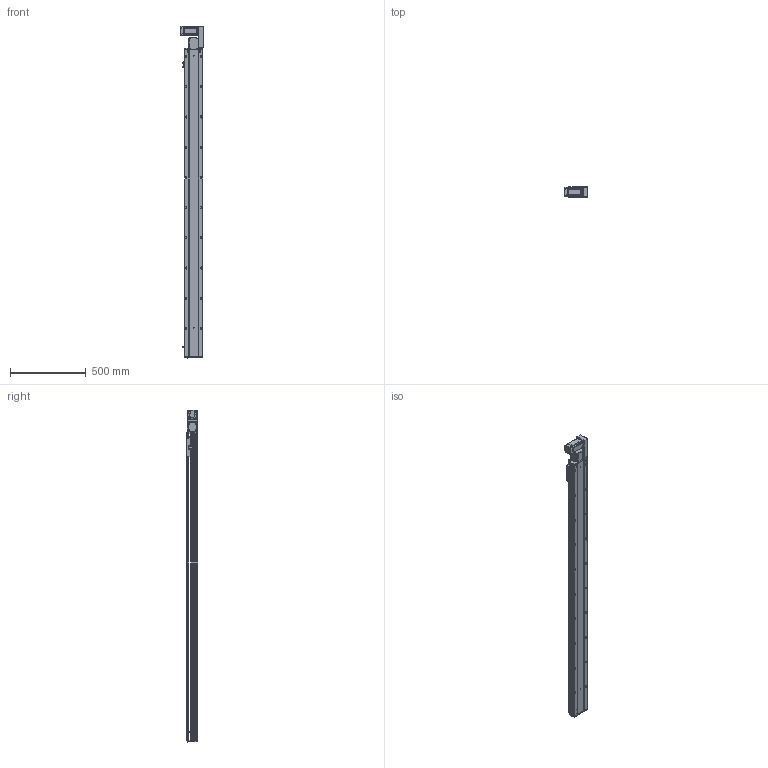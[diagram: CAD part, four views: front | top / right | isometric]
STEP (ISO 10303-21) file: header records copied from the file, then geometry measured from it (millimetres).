
FILE_DESCRIPTION (( 'STEP AP203' ), '1' );
FILE_NAME ('RY120-T-300-RK.SLDASM_1800.step', '2021-03-01T03:55:00', ( '盈信电脑' ), ( '东莞市道滘镇水果街19号' ), 'SwSTEP 2.0', 'SolidWorks 2012', '' );
FILE_SCHEMA (( 'CONFIG_CONTROL_DESIGN' ));
Length unit declared in the file: millimetre
Products named in the file (17): RY120-T-300-RK.SLDASM_1800; RY120-T蹟翐M4; RY120-T主同步轮轴承压盖; RY120-T萇儂欶; 15; RY120-T萇儂假蚾啣; RY120-T翋肮祭謫裔啣; RY120-T翋肮祭盓傅釱; RY120-T肮祭湍揤踡輸1; 滅袉蝶18-10; RY120-T肮祭湍揤踡輸2; RY120綴裔啣; 覜茼ん672; RY120外置感应片(140共用）; RY120-T-300-RK倰第菁釱_1800; RY120-T-300-RK倰第奻裔啣_1800; RY120肮祭湍臏賑輸
Assembly tree (22 placements, depth 2):
  RY120-T-300-RK.SLDASM_1800
    RY120-T-300-RK倰第菁釱_1800
    RY120-T-300-RK倰第奻裔啣_1800
    RY120肮祭湍臏賑輸
    RY120綴裔啣
    覜茼ん672  x3
    RY120外置感应片(140共用）
    RY120-T肮祭湍揤踡輸1
    RY120-T肮祭湍揤踡輸2
    RY120-T翋肮祭盓傅釱
    滅袉蝶18-10  x2
    RY120-T翋肮祭謫裔啣
    15
    RY120-T萇儂假蚾啣
    RY120-T蹟翐M4  x4
    RY120-T萇儂欶
    RY120-T主同步轮轴承压盖
Bounding box: 155.5 x 73 x 2197.5 mm (x, y, z)
Volume: 5368978.2 mm3; surface area: 2044668.9 mm2
Topology: 23 solids, 23 shells, 3050 faces, 8336 edges, 5314 vertices
Faces by surface type: plane 1442, cylinder 1208, cone 311, bspline 89
Entity records: 97783 total; most frequent: CARTESIAN_POINT 25372, ORIENTED_EDGE 14984, DIRECTION 14158, EDGE_CURVE 7492, VERTEX_POINT 4901, AXIS2_PLACEMENT_3D 4799, LINE 4560, VECTOR 4560
